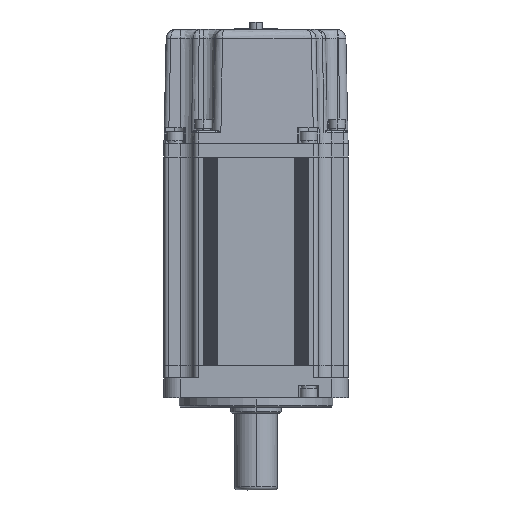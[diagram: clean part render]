
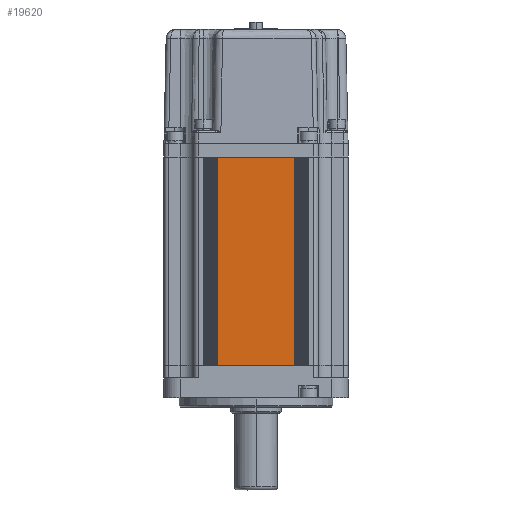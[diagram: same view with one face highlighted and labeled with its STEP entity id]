
A CAD part, left-side view. The second image highlights one B-rep face of the part: STEP entity #19620.
In plain terms, the highlighted planar face has unit normal (-1, 0, 0) as drawn and (1, 0, 0) by its records, which use the part's own axes.
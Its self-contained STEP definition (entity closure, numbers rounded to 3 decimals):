
#13010=DIRECTION('',(0.,1.,0.));
#13011=VECTOR('',#13010,25.);
#13012=CARTESIAN_POINT('',(30.,-12.5,0.));
#13013=LINE('',#13012,#13011);
#14314=DIRECTION('',(0.,1.,0.));
#14315=VECTOR('',#14314,25.);
#14316=CARTESIAN_POINT('',(30.,-12.5,68.));
#14317=LINE('',#14316,#14315);
#15359=DIRECTION('',(0.,0.,1.));
#15360=VECTOR('',#15359,68.);
#15361=CARTESIAN_POINT('',(30.,12.5,0.));
#15362=LINE('',#15361,#15360);
#15363=DIRECTION('',(0.,0.,1.));
#15364=VECTOR('',#15363,68.);
#15365=CARTESIAN_POINT('',(30.,-12.5,0.));
#15366=LINE('',#15365,#15364);
#16519=CARTESIAN_POINT('',(30.,-12.5,0.));
#16521=VERTEX_POINT('',#16519);
#16583=CARTESIAN_POINT('',(30.,-12.5,68.));
#16585=VERTEX_POINT('',#16583);
#16875=CARTESIAN_POINT('',(30.,12.5,0.));
#16876=VERTEX_POINT('',#16875);
#16907=CARTESIAN_POINT('',(30.,12.5,68.));
#16908=VERTEX_POINT('',#16907);
#19607=CARTESIAN_POINT('',(30.,-30.,0.));
#19608=DIRECTION('',(1.,0.,0.));
#19609=DIRECTION('',(0.,1.,0.));
#19610=AXIS2_PLACEMENT_3D('',#19607,#19608,#19609);
#19611=PLANE('',#19610);
#19613=ORIENTED_EDGE('',*,*,#19612,.F.);
#19614=ORIENTED_EDGE('',*,*,#17242,.F.);
#19616=ORIENTED_EDGE('',*,*,#19615,.T.);
#19617=ORIENTED_EDGE('',*,*,#18330,.T.);
#19618=EDGE_LOOP('',(#19613,#19614,#19616,#19617));
#19619=FACE_OUTER_BOUND('',#19618,.F.);
#17242=EDGE_CURVE('',#16521,#16876,#13013,.T.);
#18330=EDGE_CURVE('',#16585,#16908,#14317,.T.);
#19612=EDGE_CURVE('',#16876,#16908,#15362,.T.);
#19615=EDGE_CURVE('',#16521,#16585,#15366,.T.);
#19620=ADVANCED_FACE('',(#19619),#19611,.T.);
